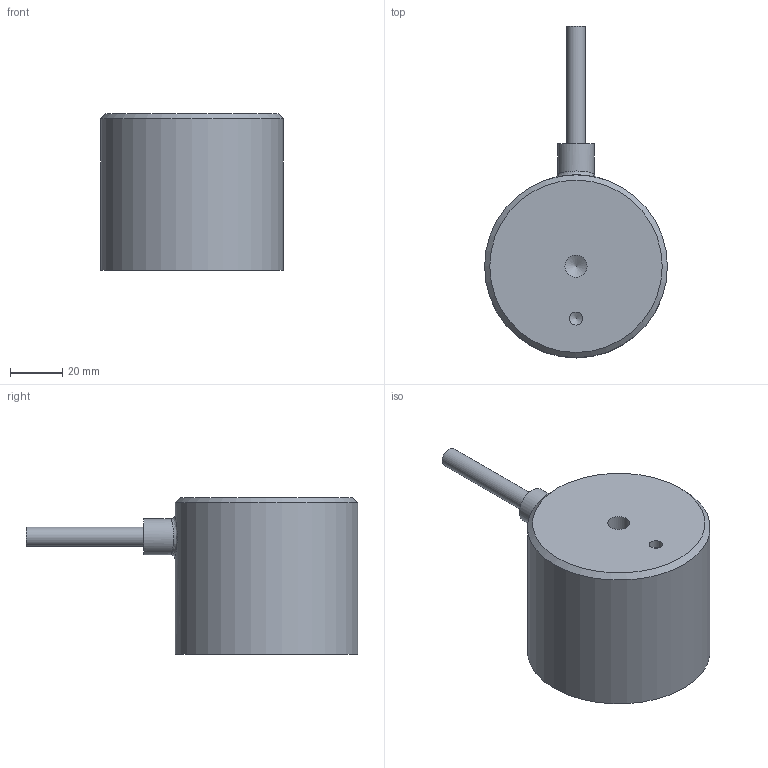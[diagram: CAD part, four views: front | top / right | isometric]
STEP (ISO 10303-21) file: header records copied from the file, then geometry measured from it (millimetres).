
FILE_DESCRIPTION(/* description */ (''),/* implementation_level */ '2;1');
FILE_NAME(/* name */ 'EMH-1-70Dx60H-S.step',/* time_stamp */ '2023-12-15T12:46:23+09:00',/* author */ (''),/* organization */ (''),/* preprocessor_version */ 'ST-DEVELOPER v20',/* originating_system */ 'Autodesk Translation Framework v12.14.0.127',/* authorisation */ '');
FILE_SCHEMA (('AUTOMOTIVE_DESIGN { 1 0 10303 214 3 1 1 }'));
Length unit declared in the file: millimetre
Products named in the file (3): EMH-1-70Dx60H-S; BODY; Cable
Assembly tree (2 placements, depth 2):
  EMH-1-70Dx60H-S
    BODY
    Cable
Bounding box: 70 x 127 x 60 mm (x, y, z)
Volume: 232474.8 mm3; surface area: 22911.2 mm2
Topology: 2 solids, 2 shells, 18 faces, 31 edges, 20 vertices
Faces by surface type: cylinder 7, plane 7, cone 3, bspline 1
Full cylindrical faces by diameter (mm): 5 x1, 7.3 x1, 8.526 x1, 13.8 x1, 30 x1, 62 x1, 70 x1
Entity records: 658 total; most frequent: CARTESIAN_POINT 198, DIRECTION 86, ORIENTED_EDGE 58, AXIS2_PLACEMENT_3D 38, EDGE_CURVE 29, EDGE_LOOP 23, VERTEX_POINT 20, FACE_OUTER_BOUND 18
